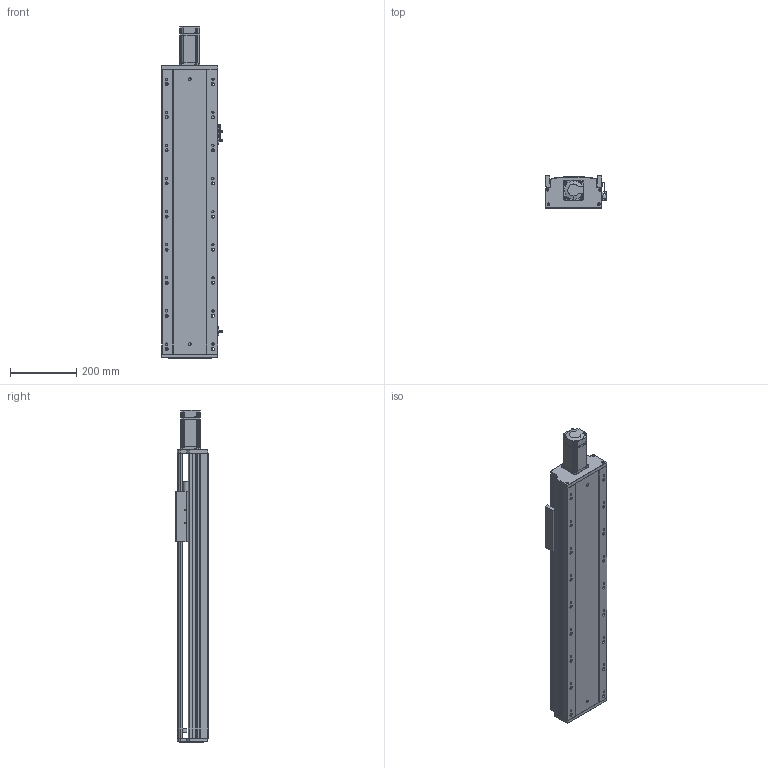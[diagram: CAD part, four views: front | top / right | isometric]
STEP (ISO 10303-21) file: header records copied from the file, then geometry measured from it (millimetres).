
FILE_DESCRIPTION (( 'STEP AP203' ), '1' );
FILE_NAME ('RY170-L2020-300-MK.SLDASM_550.step', '2021-02-20T03:50:43', ( '盈信电脑' ), ( '东莞市道滘镇水果街19号' ), 'SwSTEP 2.0', 'SolidWorks 2012', '' );
FILE_SCHEMA (( 'CONFIG_CONTROL_DESIGN' ));
Length unit declared in the file: millimetre
Products named in the file (12): 滅袉蝶18-10; RY170-L2020-300-MK.SLDASM_550; RY170外置感应片(200共用）; 覜茼ん672; 滅袉蝶18-28; RY170ヶ醱裔啣; RY170臏賑輸20佪裝蹟譫; 侂狟400W侜督萇儂; 15; RY170綴裔啣; RY170-300倰第裔啣-MK_550; RY170-300倰第菁釱-MK_550
Assembly tree (13 placements, depth 3):
  RY170-L2020-300-MK.SLDASM_550
    RY170-300倰第菁釱-MK_550
    RY170-300倰第裔啣-MK_550
    RY170臏賑輸20佪裝蹟譫
    侂狟400W侜督萇儂
      15
    RY170綴裔啣
    覜茼ん672  x3
    RY170外置感应片(200共用）
    RY170ヶ醱裔啣
    滅袉蝶18-28
    滅袉蝶18-10
Bounding box: 183.7 x 97 x 1002.5 mm (x, y, z)
Volume: 4820697.3 mm3; surface area: 1510502.7 mm2
Topology: 12 solids, 12 shells, 2146 faces, 6200 edges, 4018 vertices
Faces by surface type: plane 1166, cylinder 792, cone 159, bspline 29
Entity records: 68917 total; most frequent: CARTESIAN_POINT 15547, ORIENTED_EDGE 11220, DIRECTION 10529, EDGE_CURVE 5610, VERTEX_POINT 3698, VECTOR 3581, LINE 3581, AXIS2_PLACEMENT_3D 3474
